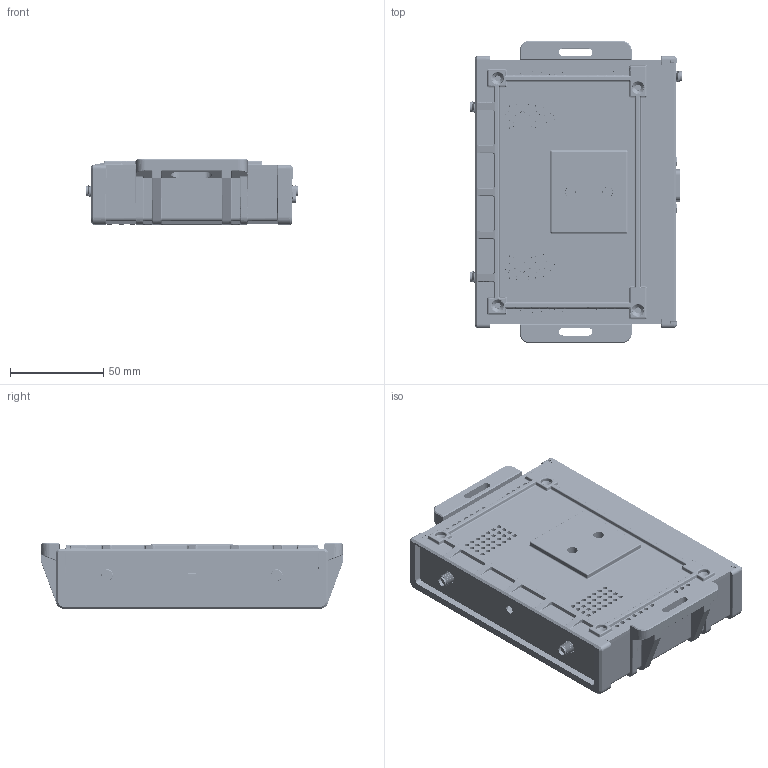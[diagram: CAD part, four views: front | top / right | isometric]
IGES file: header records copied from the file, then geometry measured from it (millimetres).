
Start section: SolidWorks IGES file using analytic representation for surfaces
Global section: file name: C:\Users\terei\Dropbox\CURRENT PROJECTS\DIGI\IX20 Enclosure Digi\5 Final Design\IX20 - No Internal Components_2020.07.29\IX20 IGS\IGS FILE_IX20 - ENCLOSURE ASSEMBLY_2020.07.29.IGS; native system: SolidWorks 2020; preprocessor: SolidWorks 2020; author: terei; date: 200728.222442; units: millimetre
Bounding box: 113.42 x 162 x 35 mm (x, y, z)
Surface area: 178359.4 mm2 (no closed solid volume)
Topology: 0 solids, 0 shells, 5266 faces, 46365 edges, 46129 vertices
Faces by surface type: bspline 3198, revolution 2068
